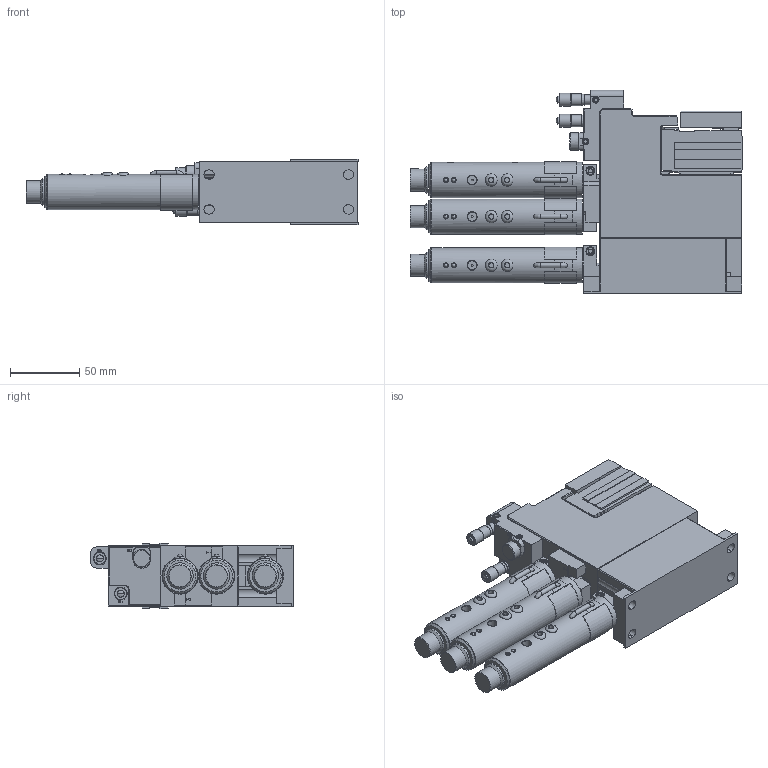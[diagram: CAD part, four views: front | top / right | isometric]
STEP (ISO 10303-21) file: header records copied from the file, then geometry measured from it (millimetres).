
FILE_DESCRIPTION((''),'1');
FILE_NAME('P1-L-H-I','2021-03-24T20:15:45',('JD'),('Luminos'),'Spatial Interop R20 SP1','Kubotek KeyCreator V9.0.3 (16864)',' ');
FILE_SCHEMA(('automotive_design'));
Length unit declared in the file: inch
Products named in the file (2): 1; 2
Bounding box: 239.8 x 147.07 x 46.99 mm (x, y, z)
Volume: 805701.7 mm3; surface area: 116507.3 mm2
Topology: 2 solids, 3 shells, 1163 faces, 2768 edges, 1732 vertices
Faces by surface type: plane 680, cylinder 224, cone 219, torus 18, sphere 16, bspline 6
Full cylindrical faces by diameter (mm): 1.27 x3, 1.626 x2, 2.261 x25, 3.505 x9, 3.632 x6, 4.039 x3, 4.166 x3, 4.5 x6, 4.572 x6, 4.648 x8, 4.762 x6, 4.775 x2, 5.08 x2, 5.74 x4, 6.35 x6, 6.553 x3, 7.01 x2, 7.144 x1, 8.509 x2, 9.322 x2, 9.5 x2, 9.525 x1, 12.7 x1, 15.469 x3, 16.002 x3, 18.923 x3, 25.4 x6, 25.405 x3
Entity records: 63185 total; most frequent: CARTESIAN_POINT 11269, DIRECTION 5229, PRESENTATION_STYLE_ASSIGNMENT 4904, COLOUR_RGB 4904, ORIENTED_EDGE 4800, STYLED_ITEM 3739, CURVE_STYLE 3565, DRAUGHTING_PRE_DEFINED_CURVE_FONT 3565
